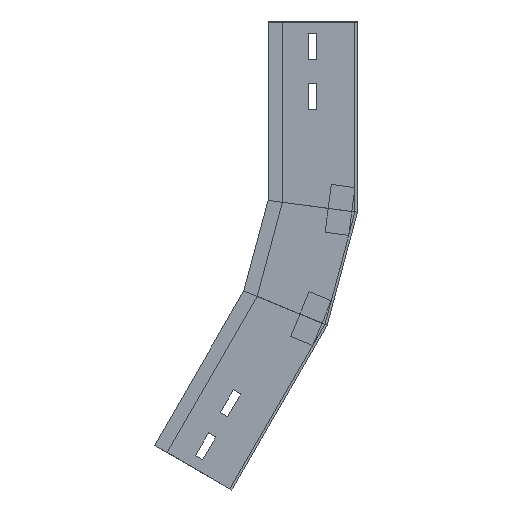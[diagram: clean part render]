
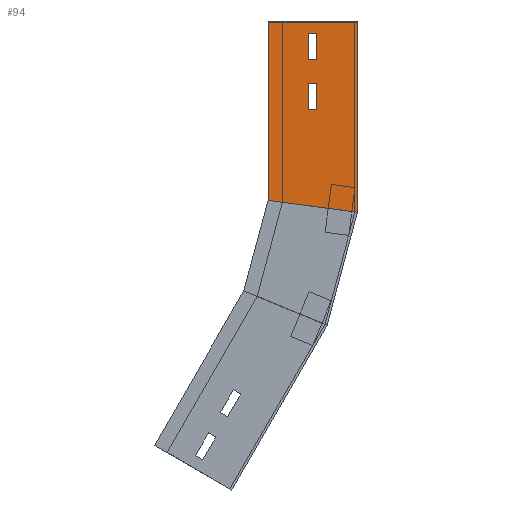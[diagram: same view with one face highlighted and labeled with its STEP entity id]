
A CAD part, left-side view. The second image highlights one B-rep face of the part: STEP entity #94.
In plain terms, the highlighted planar face has unit normal (-1, 0, 0) as drawn and (1, 0, 0) by its records, which use the part's own axes.
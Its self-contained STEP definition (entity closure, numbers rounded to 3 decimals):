
#23 = DIRECTION ( 'NONE',  ( 0., -0.5, 0.866 ) ) ;
#47 = EDGE_CURVE ( 'NONE', #826, #326, #1383, .T. ) ;
#78 = DIRECTION ( 'NONE',  ( 0., -0.866, -0.5 ) ) ;
#79 = CARTESIAN_POINT ( 'NONE',  ( 0., 118.819, -348.385 ) ) ;
#94 = ADVANCED_FACE ( 'NONE', ( #1214, #831, #1304 ), #1185, .F. ) ;
#101 = ORIENTED_EDGE ( 'NONE', *, *, #739, .F. ) ;
#103 = CARTESIAN_POINT ( 'NONE',  ( 0., 135.881, -363.937 ) ) ;
#108 = VECTOR ( 'NONE', #460, 1000. ) ;
#121 = VERTEX_POINT ( 'NONE', #1418 ) ;
#141 = EDGE_CURVE ( 'NONE', #1265, #1230, #840, .T. ) ;
#145 = VERTEX_POINT ( 'NONE', #1199 ) ;
#201 = VECTOR ( 'NONE', #725, 1000. ) ;
#212 = DIRECTION ( 'NONE',  ( 0., 0.866, 0.5 ) ) ;
#234 = ORIENTED_EDGE ( 'NONE', *, *, #1405, .F. ) ;
#249 = CARTESIAN_POINT ( 'NONE',  ( 0., 104.046, -308.798 ) ) ;
#283 = DIRECTION ( 'NONE',  ( -1., 0., 0. ) ) ;
#290 = CARTESIAN_POINT ( 'NONE',  ( 0., 108.984, -331.35 ) ) ;
#312 = LINE ( 'NONE', #1139, #1464 ) ;
#323 = CARTESIAN_POINT ( 'NONE',  ( 0., 105.292, -392.955 ) ) ;
#326 = VERTEX_POINT ( 'NONE', #756 ) ;
#329 = EDGE_CURVE ( 'NONE', #425, #870, #985, .T. ) ;
#343 = ORIENTED_EDGE ( 'NONE', *, *, #141, .F. ) ;
#347 = CARTESIAN_POINT ( 'NONE',  ( 0., 124.881, -344.885 ) ) ;
#349 = DIRECTION ( 'NONE',  ( 0., 0.866, 0.5 ) ) ;
#352 = ORIENTED_EDGE ( 'NONE', *, *, #329, .F. ) ;
#353 = LINE ( 'NONE', #1471, #512 ) ;
#354 = VECTOR ( 'NONE', #488, 1000. ) ;
#372 = CARTESIAN_POINT ( 'NONE',  ( 0., 115.046, -327.85 ) ) ;
#381 = ORIENTED_EDGE ( 'NONE', *, *, #796, .F. ) ;
#391 = CARTESIAN_POINT ( 'NONE',  ( 0., 135.881, -363.937 ) ) ;
#406 = VECTOR ( 'NONE', #23, 1000. ) ;
#425 = VERTEX_POINT ( 'NONE', #347 ) ;
#426 = AXIS2_PLACEMENT_3D ( 'NONE', #1062, #283, #856 ) ;
#432 = CARTESIAN_POINT ( 'NONE',  ( 0., 129.819, -367.437 ) ) ;
#455 = CARTESIAN_POINT ( 'NONE',  ( 0., 105.292, -392.955 ) ) ;
#460 = DIRECTION ( 'NONE',  ( 0., 0.5, -0.866 ) ) ;
#467 = EDGE_CURVE ( 'NONE', #870, #1468, #1382, .T. ) ;
#488 = DIRECTION ( 'NONE',  ( 0., 0.5, -0.866 ) ) ;
#495 = ORIENTED_EDGE ( 'NONE', *, *, #1068, .F. ) ;
#505 = LINE ( 'NONE', #964, #1488 ) ;
#512 = VECTOR ( 'NONE', #556, 1000. ) ;
#514 = DIRECTION ( 'NONE',  ( 0., -0.5, 0.866 ) ) ;
#523 = ORIENTED_EDGE ( 'NONE', *, *, #884, .F. ) ;
#556 = DIRECTION ( 'NONE',  ( 0., -0.924, -0.383 ) ) ;
#593 = CARTESIAN_POINT ( 'NONE',  ( 0., 25.442, -254.651 ) ) ;
#653 = VECTOR ( 'NONE', #349, 1000. ) ;
#673 = EDGE_LOOP ( 'NONE', ( #234, #523, #698, #352 ) ) ;
#698 = ORIENTED_EDGE ( 'NONE', *, *, #467, .F. ) ;
#712 = LINE ( 'NONE', #391, #1331 ) ;
#725 = DIRECTION ( 'NONE',  ( 0., 0.866, 0.5 ) ) ;
#737 = EDGE_LOOP ( 'NONE', ( #1120, #931, #768, #495 ) ) ;
#739 = EDGE_CURVE ( 'NONE', #1452, #1421, #1011, .T. ) ;
#755 = CARTESIAN_POINT ( 'NONE',  ( 0., 108.984, -331.35 ) ) ;
#756 = CARTESIAN_POINT ( 'NONE',  ( 0., 170.244, -355.455 ) ) ;
#759 = EDGE_LOOP ( 'NONE', ( #343, #381, #101, #1434 ) ) ;
#768 = ORIENTED_EDGE ( 'NONE', *, *, #47, .T. ) ;
#796 = EDGE_CURVE ( 'NONE', #1421, #1265, #1363, .T. ) ;
#800 = CARTESIAN_POINT ( 'NONE',  ( 0., 129.819, -367.437 ) ) ;
#823 = LINE ( 'NONE', #593, #354 ) ;
#826 = VERTEX_POINT ( 'NONE', #323 ) ;
#831 = FACE_BOUND ( 'NONE', #759, .T. ) ;
#840 = LINE ( 'NONE', #372, #406 ) ;
#856 = DIRECTION ( 'NONE',  ( 0., 0., 1. ) ) ;
#857 = VECTOR ( 'NONE', #212, 1000. ) ;
#865 = EDGE_CURVE ( 'NONE', #1348, #121, #353, .T. ) ;
#870 = VERTEX_POINT ( 'NONE', #79 ) ;
#884 = EDGE_CURVE ( 'NONE', #1468, #145, #1141, .T. ) ;
#896 = CARTESIAN_POINT ( 'NONE',  ( 0., 124.881, -344.885 ) ) ;
#904 = CARTESIAN_POINT ( 'NONE',  ( 0., 115.046, -327.85 ) ) ;
#931 = ORIENTED_EDGE ( 'NONE', *, *, #1188, .T. ) ;
#936 = VECTOR ( 'NONE', #78, 1000. ) ;
#964 = CARTESIAN_POINT ( 'NONE',  ( 0., 90.394, -217.151 ) ) ;
#985 = LINE ( 'NONE', #896, #936 ) ;
#1011 = LINE ( 'NONE', #755, #1204 ) ;
#1062 = CARTESIAN_POINT ( 'NONE',  ( 0., 25.442, -254.651 ) ) ;
#1068 = EDGE_CURVE ( 'NONE', #1348, #326, #505, .T. ) ;
#1085 = CARTESIAN_POINT ( 'NONE',  ( 0., 95.331, -225.702 ) ) ;
#1120 = ORIENTED_EDGE ( 'NONE', *, *, #865, .T. ) ;
#1126 = DIRECTION ( 'NONE',  ( 0., 0.5, -0.866 ) ) ;
#1139 = CARTESIAN_POINT ( 'NONE',  ( 0., 104.046, -308.798 ) ) ;
#1141 = LINE ( 'NONE', #103, #201 ) ;
#1150 = EDGE_CURVE ( 'NONE', #1230, #1452, #312, .T. ) ;
#1185 = PLANE ( 'NONE',  #426 ) ;
#1188 = EDGE_CURVE ( 'NONE', #121, #826, #823, .T. ) ;
#1199 = CARTESIAN_POINT ( 'NONE',  ( 0., 135.881, -363.937 ) ) ;
#1204 = VECTOR ( 'NONE', #1126, 1000. ) ;
#1214 = FACE_BOUND ( 'NONE', #673, .T. ) ;
#1230 = VERTEX_POINT ( 'NONE', #249 ) ;
#1265 = VERTEX_POINT ( 'NONE', #1288 ) ;
#1288 = CARTESIAN_POINT ( 'NONE',  ( 0., 115.046, -327.85 ) ) ;
#1304 = FACE_OUTER_BOUND ( 'NONE', #737, .T. ) ;
#1331 = VECTOR ( 'NONE', #514, 1000. ) ;
#1348 = VERTEX_POINT ( 'NONE', #1085 ) ;
#1363 = LINE ( 'NONE', #904, #857 ) ;
#1382 = LINE ( 'NONE', #800, #108 ) ;
#1383 = LINE ( 'NONE', #455, #653 ) ;
#1405 = EDGE_CURVE ( 'NONE', #145, #425, #712, .T. ) ;
#1418 = CARTESIAN_POINT ( 'NONE',  ( 0., 25.442, -254.651 ) ) ;
#1421 = VERTEX_POINT ( 'NONE', #290 ) ;
#1429 = DIRECTION ( 'NONE',  ( 0., 0.5, -0.866 ) ) ;
#1434 = ORIENTED_EDGE ( 'NONE', *, *, #1150, .F. ) ;
#1452 = VERTEX_POINT ( 'NONE', #1458 ) ;
#1458 = CARTESIAN_POINT ( 'NONE',  ( 0., 97.984, -312.298 ) ) ;
#1461 = DIRECTION ( 'NONE',  ( 0., -0.866, -0.5 ) ) ;
#1464 = VECTOR ( 'NONE', #1461, 1000. ) ;
#1468 = VERTEX_POINT ( 'NONE', #432 ) ;
#1471 = CARTESIAN_POINT ( 'NONE',  ( 0., 37.296, -249.74 ) ) ;
#1488 = VECTOR ( 'NONE', #1429, 1000. ) ;
